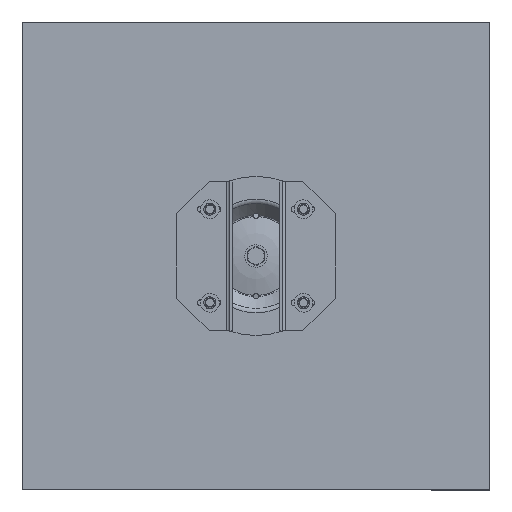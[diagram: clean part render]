
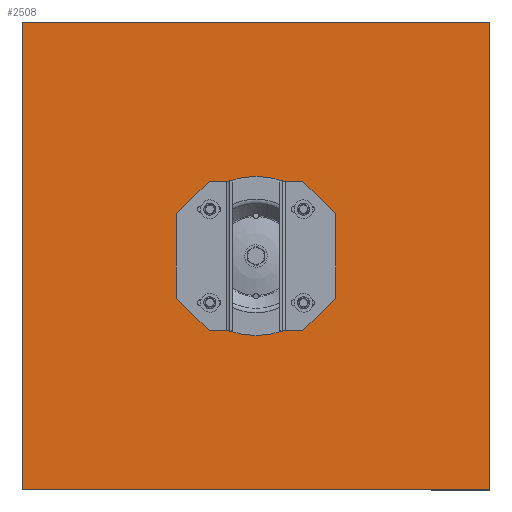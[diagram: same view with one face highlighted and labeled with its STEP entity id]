
A CAD part, top view. The second image highlights one B-rep face of the part: STEP entity #2508.
In plain terms, the highlighted planar face has unit normal (0, 0, 1).
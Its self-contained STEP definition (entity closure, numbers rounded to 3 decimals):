
#284=FACE_BOUND('',#737,.T.);
#405=CIRCLE('',#3062,50.);
#548=FACE_OUTER_BOUND('',#736,.T.);
#736=EDGE_LOOP('',(#2274,#2275,#2276,#2277));
#737=EDGE_LOOP('',(#2278));
#892=LINE('',#5012,#1053);
#896=LINE('',#5020,#1057);
#899=LINE('',#5026,#1060);
#902=LINE('',#5031,#1063);
#1053=VECTOR('',#3743,10.);
#1057=VECTOR('',#3749,10.);
#1060=VECTOR('',#3754,10.);
#1063=VECTOR('',#3759,10.);
#1266=VERTEX_POINT('',#5010);
#1267=VERTEX_POINT('',#5011);
#1270=VERTEX_POINT('',#5019);
#1272=VERTEX_POINT('',#5025);
#1278=VERTEX_POINT('',#5044);
#1597=EDGE_CURVE('',#1266,#1267,#892,.T.);
#1601=EDGE_CURVE('',#1267,#1270,#896,.T.);
#1604=EDGE_CURVE('',#1270,#1272,#899,.T.);
#1607=EDGE_CURVE('',#1272,#1266,#902,.T.);
#1614=EDGE_CURVE('',#1278,#1278,#405,.T.);
#2274=ORIENTED_EDGE('',*,*,#1607,.T.);
#2275=ORIENTED_EDGE('',*,*,#1597,.T.);
#2276=ORIENTED_EDGE('',*,*,#1601,.T.);
#2277=ORIENTED_EDGE('',*,*,#1604,.T.);
#2278=ORIENTED_EDGE('',*,*,#1614,.T.);
#2371=PLANE('',#3061);
#2508=ADVANCED_FACE('',(#548,#284),#2371,.T.);
#3061=AXIS2_PLACEMENT_3D('',#5043,#3772,#3773);
#3062=AXIS2_PLACEMENT_3D('',#5045,#3774,#3775);
#3743=DIRECTION('',(-1.,0.,0.));
#3749=DIRECTION('',(0.,-1.,0.));
#3754=DIRECTION('',(1.,0.,0.));
#3759=DIRECTION('',(0.,1.,0.));
#3772=DIRECTION('center_axis',(0.,0.,1.));
#3773=DIRECTION('ref_axis',(1.,0.,0.));
#3774=DIRECTION('center_axis',(0.,0.,-1.));
#3775=DIRECTION('ref_axis',(1.,0.,0.));
#5010=CARTESIAN_POINT('',(250.,250.,-7.));
#5011=CARTESIAN_POINT('',(-250.,250.,-7.));
#5012=CARTESIAN_POINT('',(250.,250.,-7.));
#5019=CARTESIAN_POINT('',(-250.,-250.,-7.));
#5020=CARTESIAN_POINT('',(-250.,250.,-7.));
#5025=CARTESIAN_POINT('',(250.,-250.,-7.));
#5026=CARTESIAN_POINT('',(-250.,-250.,-7.));
#5031=CARTESIAN_POINT('',(250.,-250.,-7.));
#5043=CARTESIAN_POINT('Origin',(80.,0.,-7.));
#5044=CARTESIAN_POINT('',(50.,0.,-7.));
#5045=CARTESIAN_POINT('Origin',(0.,0.,-7.));
